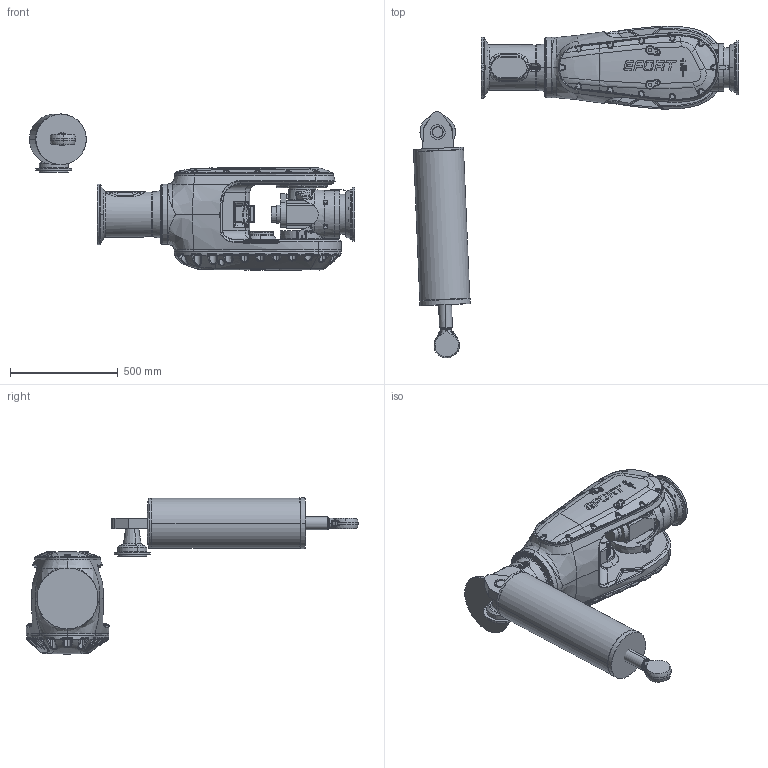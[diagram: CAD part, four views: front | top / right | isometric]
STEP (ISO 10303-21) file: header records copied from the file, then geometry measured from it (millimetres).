
FILE_DESCRIPTION (( 'STEP AP214' ), '1' );
FILE_NAME ('ER500-2800 机器人数模-2', '2026-07-27T17:41:51', ( '' ), ( '' ), 'SwSTEP 2.0', 'SolidWorks 2024', '' );
FILE_SCHEMA (( 'AUTOMOTIVE_DESIGN' ));
Length unit declared in the file: millimetre
Products named in the file (8): _____________ER500-2800 __________-2016 V1.1; _____________ER500-2800 __________-2016 V1.1-8; _________ER500-2800 __________-2016 V1.1-5; _________ER500-2800 __________-2016 V1.1-6; _______________ER500-2800 __________-2016 V1.1-7; ER500-2800 机器人数模-2; _______________ER500-2800 __________-2016 V1.1; 装配体5^ER500-2800 机器人数模 V1.1
Assembly tree (7 placements, depth 3):
  ER500-2800 机器人数模-2
    装配体5^ER500-2800 机器人数模 V1.1
      _________ER500-2800 __________-2016 V1.1-5
      _______________ER500-2800 __________-2016 V1.1
      _____________ER500-2800 __________-2016 V1.1
      _________ER500-2800 __________-2016 V1.1-6
      _______________ER500-2800 __________-2016 V1.1-7
      _____________ER500-2800 __________-2016 V1.1-8
Bounding box: 1507.73 x 1539.46 x 723.53 mm (x, y, z)
Volume: 125691055 mm3; surface area: 3373689.3 mm2
Topology: 9 solids, 9 shells, 2981 faces, 7248 edges, 4267 vertices
Faces by surface type: bspline 1539, cylinder 604, plane 532, cone 240, sphere 38, torus 28
Entity records: 223516 total; most frequent: CARTESIAN_POINT 166173, ORIENTED_EDGE 14222, DIRECTION 8710, EDGE_CURVE 7111, VERTEX_POINT 4267, AXIS2_PLACEMENT_3D 3508, EDGE_LOOP 3146, FACE_OUTER_BOUND 2981
